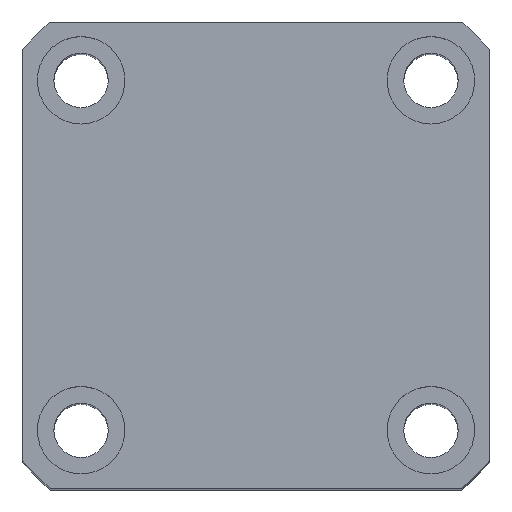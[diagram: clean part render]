
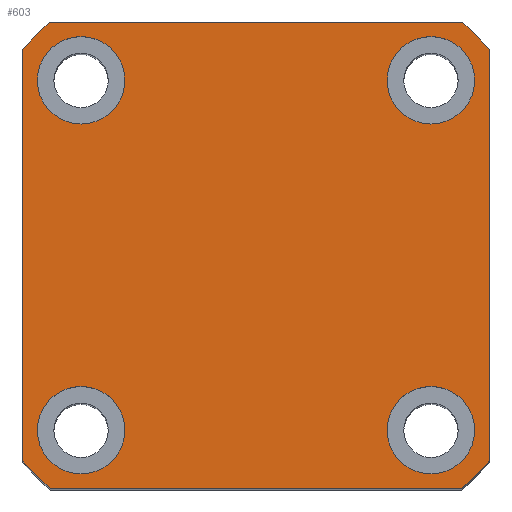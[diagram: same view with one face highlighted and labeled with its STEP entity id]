
A CAD part, top view. The second image highlights one B-rep face of the part: STEP entity #603.
In plain terms, the highlighted planar face has unit normal (0, 0, 1) as drawn and (1, 0, 0) by its records, which use the part's own axes.
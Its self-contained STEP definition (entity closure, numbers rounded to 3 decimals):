
#6 = VECTOR ( 'NONE', #3283, 1000. ) ;
#55 = EDGE_CURVE ( 'NONE', #2321, #2421, #6830, .T. ) ;
#167 = CIRCLE ( 'NONE', #5304, 4.5 ) ;
#254 = CARTESIAN_POINT ( 'NONE',  ( 90., 0., 0. ) ) ;
#311 = CARTESIAN_POINT ( 'NONE',  ( 90., -24., 21.166 ) ) ;
#317 = CIRCLE ( 'NONE', #4761, 4.5 ) ;
#325 = AXIS2_PLACEMENT_3D ( 'NONE', #979, #961, #6414 ) ;
#362 = DIRECTION ( 'NONE',  ( 0., 0., -1. ) ) ;
#368 = ORIENTED_EDGE ( 'NONE', *, *, #786, .F. ) ;
#417 = AXIS2_PLACEMENT_3D ( 'NONE', #7018, #3323, #7632 ) ;
#568 = CARTESIAN_POINT ( 'NONE',  ( 90., 21.166, 24. ) ) ;
#586 = VERTEX_POINT ( 'NONE', #3481 ) ;
#603 = ADVANCED_FACE ( 'NONE', ( #4695, #762, #4512, #2869, #1261 ), #3389, .T. ) ;
#612 = CARTESIAN_POINT ( 'NONE',  ( 90., 24., -24. ) ) ;
#615 = CARTESIAN_POINT ( 'NONE',  ( 90., 18., -18. ) ) ;
#627 = DIRECTION ( 'NONE',  ( 1., 0., 0. ) ) ;
#637 = DIRECTION ( 'NONE',  ( 0., 0., -1. ) ) ;
#660 = ORIENTED_EDGE ( 'NONE', *, *, #1619, .F. ) ;
#750 = VERTEX_POINT ( 'NONE', #2846 ) ;
#762 = FACE_BOUND ( 'NONE', #2324, .T. ) ;
#786 = EDGE_CURVE ( 'NONE', #750, #6810, #7189, .T. ) ;
#801 = CIRCLE ( 'NONE', #1218, 32. ) ;
#850 = VERTEX_POINT ( 'NONE', #2623 ) ;
#883 = DIRECTION ( 'NONE',  ( 0., 0., -1. ) ) ;
#905 = CIRCLE ( 'NONE', #325, 4.5 ) ;
#923 = DIRECTION ( 'NONE',  ( 1., 0., 0. ) ) ;
#950 = CARTESIAN_POINT ( 'NONE',  ( 90., -18., 18. ) ) ;
#961 = DIRECTION ( 'NONE',  ( 1., 0., 0. ) ) ;
#979 = CARTESIAN_POINT ( 'NONE',  ( 90., -18., -18. ) ) ;
#1047 = ORIENTED_EDGE ( 'NONE', *, *, #55, .F. ) ;
#1068 = ORIENTED_EDGE ( 'NONE', *, *, #4642, .T. ) ;
#1073 = VERTEX_POINT ( 'NONE', #5380 ) ;
#1080 = AXIS2_PLACEMENT_3D ( 'NONE', #3475, #3374, #3367 ) ;
#1196 = AXIS2_PLACEMENT_3D ( 'NONE', #615, #627, #637 ) ;
#1218 = AXIS2_PLACEMENT_3D ( 'NONE', #254, #4565, #883 ) ;
#1223 = VERTEX_POINT ( 'NONE', #7796 ) ;
#1261 = FACE_OUTER_BOUND ( 'NONE', #5774, .T. ) ;
#1353 = CARTESIAN_POINT ( 'NONE',  ( 90., 18., 22.5 ) ) ;
#1472 = CARTESIAN_POINT ( 'NONE',  ( 90., 0., 0. ) ) ;
#1487 = DIRECTION ( 'NONE',  ( 1., 0., 0. ) ) ;
#1492 = DIRECTION ( 'NONE',  ( 0., 0., -1. ) ) ;
#1533 = CARTESIAN_POINT ( 'NONE',  ( 90., 24., 24. ) ) ;
#1563 = CARTESIAN_POINT ( 'NONE',  ( 90., -18., -18. ) ) ;
#1574 = DIRECTION ( 'NONE',  ( 1., 0., 0. ) ) ;
#1585 = DIRECTION ( 'NONE',  ( 0., 0., -1. ) ) ;
#1596 = CARTESIAN_POINT ( 'NONE',  ( 90., -18., -13.5 ) ) ;
#1619 = EDGE_CURVE ( 'NONE', #850, #4197, #3626, .T. ) ;
#1814 = EDGE_CURVE ( 'NONE', #6810, #750, #167, .T. ) ;
#1947 = ORIENTED_EDGE ( 'NONE', *, *, #7798, .T. ) ;
#1977 = CIRCLE ( 'NONE', #417, 32. ) ;
#2017 = DIRECTION ( 'NONE',  ( 1., 0., 0. ) ) ;
#2033 = ORIENTED_EDGE ( 'NONE', *, *, #3189, .F. ) ;
#2088 = VECTOR ( 'NONE', #5817, 1000. ) ;
#2233 = VERTEX_POINT ( 'NONE', #568 ) ;
#2246 = CARTESIAN_POINT ( 'NONE',  ( 90., -24., -21.166 ) ) ;
#2269 = LINE ( 'NONE', #1533, #2088 ) ;
#2279 = DIRECTION ( 'NONE',  ( 1., 0., 0. ) ) ;
#2321 = VERTEX_POINT ( 'NONE', #6379 ) ;
#2324 = EDGE_LOOP ( 'NONE', ( #7596, #1047 ) ) ;
#2345 = EDGE_CURVE ( 'NONE', #2421, #2321, #4956, .T. ) ;
#2378 = VERTEX_POINT ( 'NONE', #311 ) ;
#2421 = VERTEX_POINT ( 'NONE', #5390 ) ;
#2503 = ORIENTED_EDGE ( 'NONE', *, *, #2602, .F. ) ;
#2529 = CARTESIAN_POINT ( 'NONE',  ( 90., 18., 18. ) ) ;
#2537 = DIRECTION ( 'NONE',  ( 0., 0., -1. ) ) ;
#2573 = CARTESIAN_POINT ( 'NONE',  ( 90., -21.166, 24. ) ) ;
#2602 = EDGE_CURVE ( 'NONE', #4197, #850, #317, .T. ) ;
#2606 = VERTEX_POINT ( 'NONE', #1596 ) ;
#2623 = CARTESIAN_POINT ( 'NONE',  ( 90., 18., -13.5 ) ) ;
#2666 = CARTESIAN_POINT ( 'NONE',  ( 90., -24., 24. ) ) ;
#2846 = CARTESIAN_POINT ( 'NONE',  ( 90., 18., 13.5 ) ) ;
#2869 = FACE_BOUND ( 'NONE', #6910, .T. ) ;
#2891 = ORIENTED_EDGE ( 'NONE', *, *, #4101, .T. ) ;
#2904 = LINE ( 'NONE', #612, #6373 ) ;
#2922 = CIRCLE ( 'NONE', #7087, 32. ) ;
#3135 = EDGE_CURVE ( 'NONE', #5475, #1073, #2922, .T. ) ;
#3150 = EDGE_CURVE ( 'NONE', #2606, #586, #5994, .T. ) ;
#3189 = EDGE_CURVE ( 'NONE', #586, #2606, #905, .T. ) ;
#3283 = DIRECTION ( 'NONE',  ( 0., 0., -1. ) ) ;
#3323 = DIRECTION ( 'NONE',  ( 1., 0., 0. ) ) ;
#3367 = DIRECTION ( 'NONE',  ( 0., 0., -1. ) ) ;
#3374 = DIRECTION ( 'NONE',  ( 1., 0., 0. ) ) ;
#3389 = PLANE ( 'NONE',  #1080 ) ;
#3453 = ORIENTED_EDGE ( 'NONE', *, *, #6819, .T. ) ;
#3475 = CARTESIAN_POINT ( 'NONE',  ( 90., 0., 0. ) ) ;
#3481 = CARTESIAN_POINT ( 'NONE',  ( 90., -18., -22.5 ) ) ;
#3626 = CIRCLE ( 'NONE', #1196, 4.5 ) ;
#3816 = CARTESIAN_POINT ( 'NONE',  ( 90., 24., -21.166 ) ) ;
#3969 = VECTOR ( 'NONE', #6786, 1000. ) ;
#4020 = EDGE_CURVE ( 'NONE', #2233, #6209, #5987, .T. ) ;
#4101 = EDGE_CURVE ( 'NONE', #6209, #2378, #1977, .T. ) ;
#4197 = VERTEX_POINT ( 'NONE', #6392 ) ;
#4512 = FACE_BOUND ( 'NONE', #4994, .T. ) ;
#4565 = DIRECTION ( 'NONE',  ( 1., 0., 0. ) ) ;
#4642 = EDGE_CURVE ( 'NONE', #2378, #5475, #6560, .T. ) ;
#4650 = EDGE_CURVE ( 'NONE', #1073, #4703, #2904, .T. ) ;
#4695 = FACE_BOUND ( 'NONE', #6534, .T. ) ;
#4703 = VERTEX_POINT ( 'NONE', #7389 ) ;
#4761 = AXIS2_PLACEMENT_3D ( 'NONE', #7290, #7267, #7239 ) ;
#4925 = DIRECTION ( 'NONE',  ( 0., 1., 0. ) ) ;
#4956 = CIRCLE ( 'NONE', #6989, 4.5 ) ;
#4994 = EDGE_LOOP ( 'NONE', ( #2503, #660 ) ) ;
#5028 = CARTESIAN_POINT ( 'NONE',  ( 90., -18., 18. ) ) ;
#5198 = VERTEX_POINT ( 'NONE', #3816 ) ;
#5205 = AXIS2_PLACEMENT_3D ( 'NONE', #2529, #2279, #2537 ) ;
#5299 = ORIENTED_EDGE ( 'NONE', *, *, #7007, .T. ) ;
#5304 = AXIS2_PLACEMENT_3D ( 'NONE', #5880, #5847, #5824 ) ;
#5322 = DIRECTION ( 'NONE',  ( 1., 0., 0. ) ) ;
#5349 = DIRECTION ( 'NONE',  ( 0., 0., -1. ) ) ;
#5380 = CARTESIAN_POINT ( 'NONE',  ( 90., -21.166, -24. ) ) ;
#5383 = ORIENTED_EDGE ( 'NONE', *, *, #4650, .T. ) ;
#5390 = CARTESIAN_POINT ( 'NONE',  ( 90., -18., 13.5 ) ) ;
#5475 = VERTEX_POINT ( 'NONE', #2246 ) ;
#5688 = CARTESIAN_POINT ( 'NONE',  ( 90., 0., 0. ) ) ;
#5774 = EDGE_LOOP ( 'NONE', ( #5383, #1947, #5299, #3453, #7801, #2891, #1068, #7209 ) ) ;
#5817 = DIRECTION ( 'NONE',  ( 0., 0., 1. ) ) ;
#5824 = DIRECTION ( 'NONE',  ( 0., 0., -1. ) ) ;
#5847 = DIRECTION ( 'NONE',  ( 1., 0., 0. ) ) ;
#5880 = CARTESIAN_POINT ( 'NONE',  ( 90., 18., 18. ) ) ;
#5906 = CIRCLE ( 'NONE', #7024, 32. ) ;
#5987 = LINE ( 'NONE', #7593, #3969 ) ;
#5994 = CIRCLE ( 'NONE', #6668, 4.5 ) ;
#6209 = VERTEX_POINT ( 'NONE', #2573 ) ;
#6312 = DIRECTION ( 'NONE',  ( 0., 0., -1. ) ) ;
#6373 = VECTOR ( 'NONE', #4925, 1000. ) ;
#6379 = CARTESIAN_POINT ( 'NONE',  ( 90., -18., 22.5 ) ) ;
#6392 = CARTESIAN_POINT ( 'NONE',  ( 90., 18., -22.5 ) ) ;
#6414 = DIRECTION ( 'NONE',  ( 0., 0., -1. ) ) ;
#6528 = ORIENTED_EDGE ( 'NONE', *, *, #3150, .F. ) ;
#6534 = EDGE_LOOP ( 'NONE', ( #2033, #6528 ) ) ;
#6560 = LINE ( 'NONE', #2666, #6 ) ;
#6668 = AXIS2_PLACEMENT_3D ( 'NONE', #1563, #1574, #1585 ) ;
#6745 = AXIS2_PLACEMENT_3D ( 'NONE', #5028, #5322, #5349 ) ;
#6786 = DIRECTION ( 'NONE',  ( 0., -1., 0. ) ) ;
#6810 = VERTEX_POINT ( 'NONE', #1353 ) ;
#6819 = EDGE_CURVE ( 'NONE', #1223, #2233, #5906, .T. ) ;
#6830 = CIRCLE ( 'NONE', #6745, 4.5 ) ;
#6910 = EDGE_LOOP ( 'NONE', ( #368, #7605 ) ) ;
#6989 = AXIS2_PLACEMENT_3D ( 'NONE', #950, #923, #362 ) ;
#7007 = EDGE_CURVE ( 'NONE', #5198, #1223, #2269, .T. ) ;
#7018 = CARTESIAN_POINT ( 'NONE',  ( 90., 0., 0. ) ) ;
#7024 = AXIS2_PLACEMENT_3D ( 'NONE', #5688, #2017, #6312 ) ;
#7087 = AXIS2_PLACEMENT_3D ( 'NONE', #1472, #1487, #1492 ) ;
#7189 = CIRCLE ( 'NONE', #5205, 4.5 ) ;
#7209 = ORIENTED_EDGE ( 'NONE', *, *, #3135, .T. ) ;
#7239 = DIRECTION ( 'NONE',  ( 0., 0., -1. ) ) ;
#7267 = DIRECTION ( 'NONE',  ( 1., 0., 0. ) ) ;
#7290 = CARTESIAN_POINT ( 'NONE',  ( 90., 18., -18. ) ) ;
#7389 = CARTESIAN_POINT ( 'NONE',  ( 90., 21.166, -24. ) ) ;
#7593 = CARTESIAN_POINT ( 'NONE',  ( 90., 24., 24. ) ) ;
#7596 = ORIENTED_EDGE ( 'NONE', *, *, #2345, .F. ) ;
#7605 = ORIENTED_EDGE ( 'NONE', *, *, #1814, .F. ) ;
#7632 = DIRECTION ( 'NONE',  ( 0., 0., -1. ) ) ;
#7796 = CARTESIAN_POINT ( 'NONE',  ( 90., 24., 21.166 ) ) ;
#7798 = EDGE_CURVE ( 'NONE', #4703, #5198, #801, .T. ) ;
#7801 = ORIENTED_EDGE ( 'NONE', *, *, #4020, .T. ) ;
